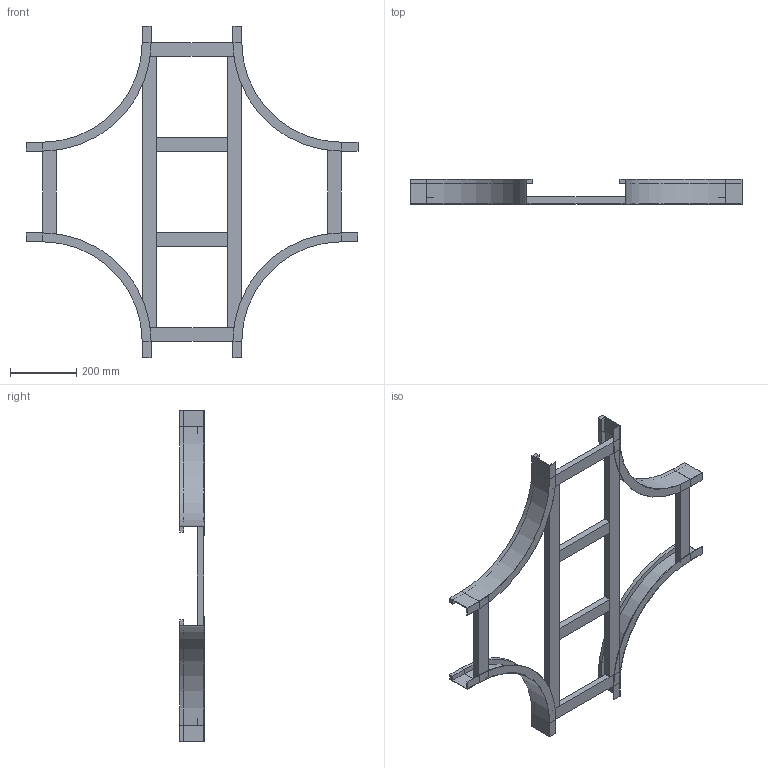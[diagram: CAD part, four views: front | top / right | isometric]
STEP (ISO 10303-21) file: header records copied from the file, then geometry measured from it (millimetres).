
FILE_DESCRIPTION (( 'STEP AP214' ), '1' );
FILE_NAME ('B2_17B3C300.step', '2025-02-21T15:59:05', ( '' ), ( '' ), 'SwSTEP 2.0', 'SolidWorks 2023', '' );
FILE_SCHEMA (( 'AUTOMOTIVE_DESIGN' ));
Length unit declared in the file: millimetre
Products named in the file (5): B2_TRAVERSINO_LONG._R300+300; B2_LONGH.INTERNO 90°_H75_R300; B2_17B3C300; TRAVERSINO_300; TRAVERSINO_INTERMEDIO_R300+300
Assembly tree (12 placements, depth 2):
  B2_17B3C300
    B2_LONGH.INTERNO 90°_H75_R300  x4
    TRAVERSINO_300  x4
    B2_TRAVERSINO_LONG._R300+300  x2
    TRAVERSINO_INTERMEDIO_R300+300  x2
Bounding box: 1000 x 75 x 1000 mm (x, y, z)
Volume: 3547384.1 mm3; surface area: 957891.6 mm2
Topology: 12 solids, 12 shells, 152 faces, 320 edges, 192 vertices
Faces by surface type: plane 136, cylinder 16
Entity records: 1354 total; most frequent: DIRECTION 218, CARTESIAN_POINT 207, ORIENTED_EDGE 184, EDGE_CURVE 92, VECTOR 84, LINE 84, AXIS2_PLACEMENT_3D 67, VERTEX_POINT 56
